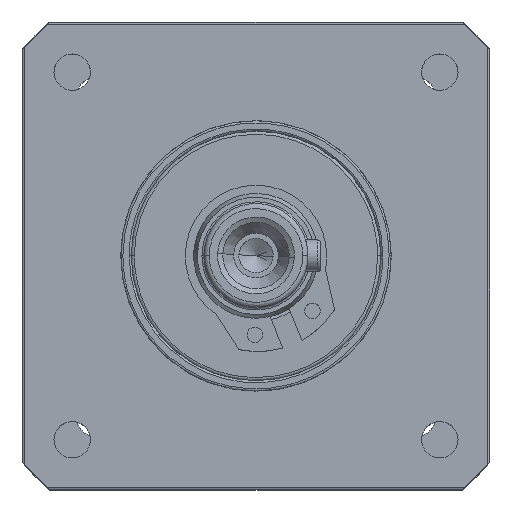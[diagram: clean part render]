
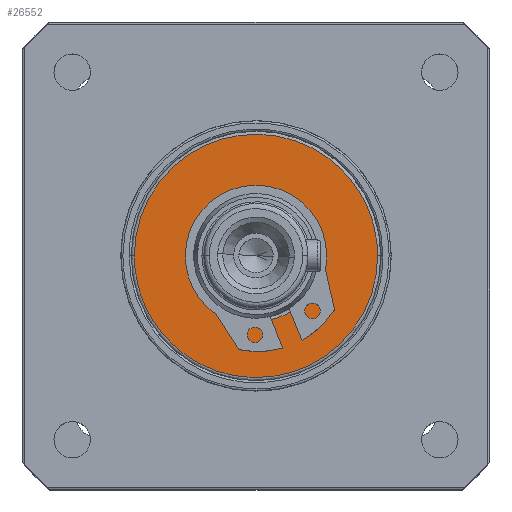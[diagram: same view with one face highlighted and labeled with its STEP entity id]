
A CAD part, top view. The second image highlights one B-rep face of the part: STEP entity #26552.
In plain terms, the highlighted planar face has unit normal (0, 0, 1).
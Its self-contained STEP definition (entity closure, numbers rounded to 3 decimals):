
#645 = CARTESIAN_POINT ( 'NONE',  ( -11.11, 13.862, 46.25 ) ) ;
#3639 = CARTESIAN_POINT ( 'NONE',  ( 6.89, 13.862, 46.25 ) ) ;
#3671 = DIRECTION ( 'NONE',  ( -1., 0., 0. ) ) ;
#3884 = CARTESIAN_POINT ( 'NONE',  ( -11.11, 26.462, 46.25 ) ) ;
#4048 = ORIENTED_EDGE ( 'NONE', *, *, #8340, .F. ) ;
#5444 = EDGE_CURVE ( 'NONE', #22528, #15083, #12891, .T. ) ;
#8340 = EDGE_CURVE ( 'NONE', #15083, #22528, #31776, .T. ) ;
#10093 = CARTESIAN_POINT ( 'NONE',  ( -4.81, 25.562, 46.25 ) ) ;
#11121 =( BOUNDED_CURVE ( )  B_SPLINE_CURVE ( 3, ( #37763, #31722, #28520, #24873 ),
 .UNSPECIFIED., .F., .F. ) 
 B_SPLINE_CURVE_WITH_KNOTS ( ( 4, 4 ),
 ( 0., 1. ),
 .UNSPECIFIED. ) 
 CURVE ( )  GEOMETRIC_REPRESENTATION_ITEM ( )  RATIONAL_B_SPLINE_CURVE ( ( 1., 0.333, 0.333, 1. ) ) 
 REPRESENTATION_ITEM ( '' )  );
#12891 =( BOUNDED_CURVE ( )  B_SPLINE_CURVE ( 3, ( #19699, #16307, #36236, #3639 ),
 .UNSPECIFIED., .F., .F. ) 
 B_SPLINE_CURVE_WITH_KNOTS ( ( 4, 4 ),
 ( 0., 1. ),
 .UNSPECIFIED. ) 
 CURVE ( )  GEOMETRIC_REPRESENTATION_ITEM ( )  RATIONAL_B_SPLINE_CURVE ( ( 1., 0.333, 0.333, 1. ) ) 
 REPRESENTATION_ITEM ( '' )  );
#15083 = VERTEX_POINT ( 'NONE', #35202 ) ;
#15760 =( BOUNDED_CURVE ( )  B_SPLINE_CURVE ( 3, ( #20154, #20573, #3884, #645 ),
 .UNSPECIFIED., .F., .F. ) 
 B_SPLINE_CURVE_WITH_KNOTS ( ( 4, 4 ),
 ( 0., 1. ),
 .UNSPECIFIED. ) 
 CURVE ( )  GEOMETRIC_REPRESENTATION_ITEM ( )  RATIONAL_B_SPLINE_CURVE ( ( 1., 0.333, 0.333, 1. ) ) 
 REPRESENTATION_ITEM ( '' )  );
#16307 = CARTESIAN_POINT ( 'NONE',  ( -16.51, 37.262, 46.25 ) ) ;
#17441 = VERTEX_POINT ( 'NONE', #30927 ) ;
#17669 = CARTESIAN_POINT ( 'NONE',  ( 6.89, -9.538, 46.25 ) ) ;
#19699 = CARTESIAN_POINT ( 'NONE',  ( -16.51, 13.862, 46.25 ) ) ;
#20154 = CARTESIAN_POINT ( 'NONE',  ( 1.49, 13.862, 46.25 ) ) ;
#20573 = CARTESIAN_POINT ( 'NONE',  ( 1.49, 26.462, 46.25 ) ) ;
#22528 = VERTEX_POINT ( 'NONE', #34129 ) ;
#23186 = DIRECTION ( 'NONE',  ( 0., 0., -1. ) ) ;
#24298 = CARTESIAN_POINT ( 'NONE',  ( 6.89, 13.862, 46.25 ) ) ;
#24873 = CARTESIAN_POINT ( 'NONE',  ( 1.49, 13.862, 46.25 ) ) ;
#26300 = ORIENTED_EDGE ( 'NONE', *, *, #26649, .F. ) ;
#26389 = PLANE ( 'NONE',  #40222 ) ;
#26552 = ADVANCED_FACE ( 'NONE', ( #36265, #29413 ), #26389, .F. ) ;
#26649 = EDGE_CURVE ( 'NONE', #17441, #30395, #15760, .T. ) ;
#28350 = EDGE_LOOP ( 'NONE', ( #4048, #34467 ) ) ;
#28520 = CARTESIAN_POINT ( 'NONE',  ( 1.49, 1.262, 46.25 ) ) ;
#29413 = FACE_BOUND ( 'NONE', #29819, .T. ) ;
#29819 = EDGE_LOOP ( 'NONE', ( #33207, #26300 ) ) ;
#30395 = VERTEX_POINT ( 'NONE', #33965 ) ;
#30729 = CARTESIAN_POINT ( 'NONE',  ( -16.51, 13.862, 46.25 ) ) ;
#30927 = CARTESIAN_POINT ( 'NONE',  ( 1.49, 13.862, 46.25 ) ) ;
#31722 = CARTESIAN_POINT ( 'NONE',  ( -11.11, 1.262, 46.25 ) ) ;
#31776 =( BOUNDED_CURVE ( )  B_SPLINE_CURVE ( 3, ( #24298, #17669, #34383, #30729 ),
 .UNSPECIFIED., .F., .F. ) 
 B_SPLINE_CURVE_WITH_KNOTS ( ( 4, 4 ),
 ( 0., 1. ),
 .UNSPECIFIED. ) 
 CURVE ( )  GEOMETRIC_REPRESENTATION_ITEM ( )  RATIONAL_B_SPLINE_CURVE ( ( 1., 0.333, 0.333, 1. ) ) 
 REPRESENTATION_ITEM ( '' )  );
#33207 = ORIENTED_EDGE ( 'NONE', *, *, #37734, .F. ) ;
#33965 = CARTESIAN_POINT ( 'NONE',  ( -11.11, 13.862, 46.25 ) ) ;
#34129 = CARTESIAN_POINT ( 'NONE',  ( -16.51, 13.862, 46.25 ) ) ;
#34383 = CARTESIAN_POINT ( 'NONE',  ( -16.51, -9.538, 46.25 ) ) ;
#34467 = ORIENTED_EDGE ( 'NONE', *, *, #5444, .F. ) ;
#35202 = CARTESIAN_POINT ( 'NONE',  ( 6.89, 13.862, 46.25 ) ) ;
#36236 = CARTESIAN_POINT ( 'NONE',  ( 6.89, 37.262, 46.25 ) ) ;
#36265 = FACE_OUTER_BOUND ( 'NONE', #28350, .T. ) ;
#37734 = EDGE_CURVE ( 'NONE', #30395, #17441, #11121, .T. ) ;
#37763 = CARTESIAN_POINT ( 'NONE',  ( -11.11, 13.862, 46.25 ) ) ;
#40222 = AXIS2_PLACEMENT_3D ( 'NONE', #10093, #23186, #3671 ) ;
